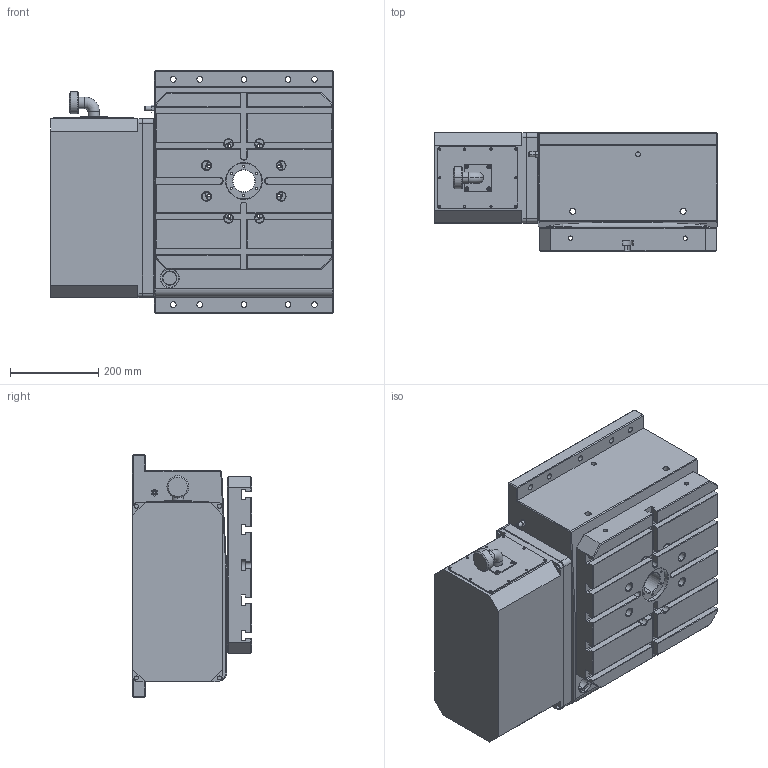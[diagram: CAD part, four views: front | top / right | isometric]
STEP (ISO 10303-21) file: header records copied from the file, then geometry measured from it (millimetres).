
FILE_DESCRIPTION (( 'STEP AP203' ), '1' );
FILE_NAME ('WDS-H400 Íâ¹Û³ß´çÍ¼ REV.01.STEP', '2021-01-05T00:19:40', ( '' ), ( '' ), 'SwSTEP 2.0', 'SolidWorks 2018', '' );
FILE_SCHEMA (( 'CONFIG_CONTROL_DESIGN' ));
Length unit declared in the file: millimetre
Products named in the file (1): WDS-H400 俋夤喜渡芞 REV.01
Bounding box: 641 x 270 x 550 mm (x, y, z)
Surface area: 1915320.7 mm2 (no closed solid volume)
Topology: 0 solids, 17 shells, 620 faces, 1787 edges, 1182 vertices
Faces by surface type: plane 288, cylinder 236, cone 88, torus 8
Entity records: 20877 total; most frequent: CARTESIAN_POINT 3954, DIRECTION 3711, ORIENTED_EDGE 3182, EDGE_CURVE 1787, AXIS2_PLACEMENT_3D 1330, VERTEX_POINT 1182, LINE 1051, VECTOR 1051
